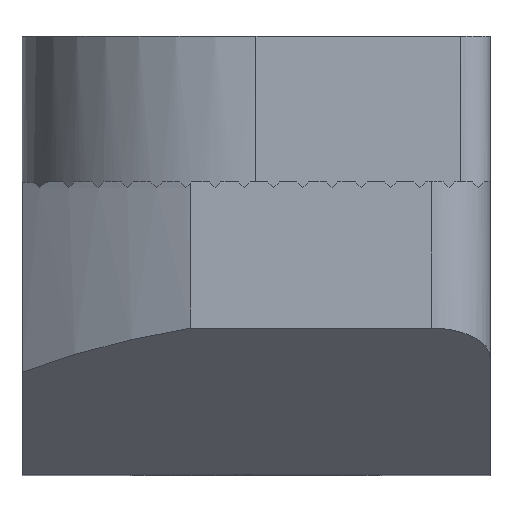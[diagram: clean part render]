
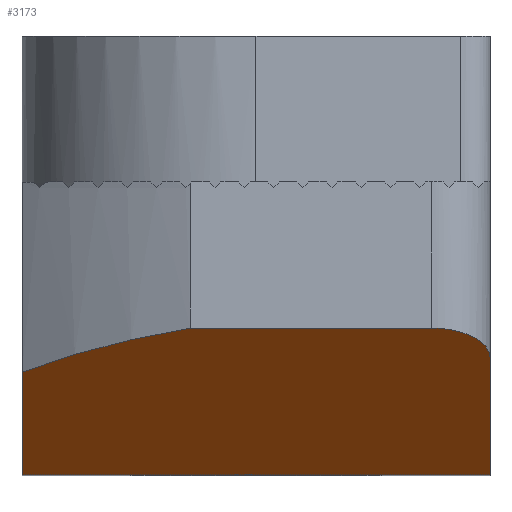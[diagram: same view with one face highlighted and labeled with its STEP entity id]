
A CAD part, top view. The second image highlights one B-rep face of the part: STEP entity #3173.
In plain terms, the highlighted planar face has unit normal (0, -0.894, 0.447).
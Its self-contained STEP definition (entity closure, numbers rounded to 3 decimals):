
#13 = EDGE_CURVE ( 'NONE', #2596, #3534, #190, .T. ) ;
#64 = EDGE_CURVE ( 'NONE', #2393, #1236, #3923, .T. ) ;
#123 = CARTESIAN_POINT ( 'NONE',  ( -2.159, -2.67, 9.159 ) ) ;
#136 = EDGE_CURVE ( 'NONE', #2957, #1524, #2255, .T. ) ;
#158 = DIRECTION ( 'NONE',  ( 0., 0.447, 0.894 ) ) ;
#190 =( BOUNDED_CURVE ( )  B_SPLINE_CURVE ( 3, ( #956, #4084, #616, #3161 ),
 .UNSPECIFIED., .F., .T. ) 
 B_SPLINE_CURVE_WITH_KNOTS ( ( 4, 4 ),
 ( 4.712, 6.283 ),
 .UNSPECIFIED. ) 
 CURVE ( )  GEOMETRIC_REPRESENTATION_ITEM ( )  RATIONAL_B_SPLINE_CURVE ( ( 1., 0.805, 0.805, 1. ) ) 
 REPRESENTATION_ITEM ( '' )  );
#301 = ORIENTED_EDGE ( 'NONE', *, *, #2933, .F. ) ;
#442 = ORIENTED_EDGE ( 'NONE', *, *, #2646, .F. ) ;
#616 = CARTESIAN_POINT ( 'NONE',  ( 3.586, -2.5, 9.5 ) ) ;
#758 = CARTESIAN_POINT ( 'NONE',  ( -4., -2.5, 9.5 ) ) ;
#949 = ORIENTED_EDGE ( 'NONE', *, *, #136, .T. ) ;
#956 = CARTESIAN_POINT ( 'NONE',  ( 4., -3., 8.5 ) ) ;
#1083 = DIRECTION ( 'NONE',  ( 0., 0.894, -0.447 ) ) ;
#1236 = VERTEX_POINT ( 'NONE', #3051 ) ;
#1380 = EDGE_CURVE ( 'NONE', #1524, #2596, #3171, .T. ) ;
#1446 = LINE ( 'NONE', #2852, #3186 ) ;
#1524 = VERTEX_POINT ( 'NONE', #1829 ) ;
#1829 = CARTESIAN_POINT ( 'NONE',  ( 4., -5., 4.5 ) ) ;
#1963 = DIRECTION ( 'NONE',  ( 1., 0., 0. ) ) ;
#2012 = EDGE_LOOP ( 'NONE', ( #2357, #3816, #301, #3047, #442, #949 ) ) ;
#2131 = CARTESIAN_POINT ( 'NONE',  ( -3.127, -2.923, 8.655 ) ) ;
#2255 = LINE ( 'NONE', #3476, #2502 ) ;
#2259 = FACE_OUTER_BOUND ( 'NONE', #2012, .T. ) ;
#2357 = ORIENTED_EDGE ( 'NONE', *, *, #1380, .T. ) ;
#2393 = VERTEX_POINT ( 'NONE', #3579 ) ;
#2454 = CARTESIAN_POINT ( 'NONE',  ( -1.122, -2.5, 9.5 ) ) ;
#2502 = VECTOR ( 'NONE', #1963, 1000. ) ;
#2596 = VERTEX_POINT ( 'NONE', #3707 ) ;
#2630 = LINE ( 'NONE', #3347, #2636 ) ;
#2636 = VECTOR ( 'NONE', #3022, 1000. ) ;
#2646 = EDGE_CURVE ( 'NONE', #2957, #2393, #1446, .T. ) ;
#2672 = PLANE ( 'NONE',  #2701 ) ;
#2701 = AXIS2_PLACEMENT_3D ( 'NONE', #758, #1083, #3279 ) ;
#2852 = CARTESIAN_POINT ( 'NONE',  ( -4., -2.5, 9.5 ) ) ;
#2933 = EDGE_CURVE ( 'NONE', #1236, #3534, #2630, .T. ) ;
#2957 = VERTEX_POINT ( 'NONE', #3058 ) ;
#3022 = DIRECTION ( 'NONE',  ( 1., 0., 0. ) ) ;
#3026 = CARTESIAN_POINT ( 'NONE',  ( -4., -3.25, 8. ) ) ;
#3047 = ORIENTED_EDGE ( 'NONE', *, *, #64, .F. ) ;
#3051 = CARTESIAN_POINT ( 'NONE',  ( -1.122, -2.5, 9.5 ) ) ;
#3058 = CARTESIAN_POINT ( 'NONE',  ( -4., -5., 4.5 ) ) ;
#3122 = VECTOR ( 'NONE', #158, 1000. ) ;
#3161 = CARTESIAN_POINT ( 'NONE',  ( 3., -2.5, 9.5 ) ) ;
#3171 = LINE ( 'NONE', #3998, #3122 ) ;
#3173 = ADVANCED_FACE ( 'NONE', ( #2259 ), #2672, .F. ) ;
#3186 = VECTOR ( 'NONE', #3467, 1000. ) ;
#3279 = DIRECTION ( 'NONE',  ( 0., 0.447, 0.894 ) ) ;
#3347 = CARTESIAN_POINT ( 'NONE',  ( -4., -2.5, 9.5 ) ) ;
#3467 = DIRECTION ( 'NONE',  ( 0., 0.447, 0.894 ) ) ;
#3476 = CARTESIAN_POINT ( 'NONE',  ( -4., -5., 4.5 ) ) ;
#3534 = VERTEX_POINT ( 'NONE', #3614 ) ;
#3579 = CARTESIAN_POINT ( 'NONE',  ( -4., -3.25, 8. ) ) ;
#3614 = CARTESIAN_POINT ( 'NONE',  ( 3., -2.5, 9.5 ) ) ;
#3707 = CARTESIAN_POINT ( 'NONE',  ( 4., -3., 8.5 ) ) ;
#3816 = ORIENTED_EDGE ( 'NONE', *, *, #13, .T. ) ;
#3923 =( BOUNDED_CURVE ( )  B_SPLINE_CURVE ( 3, ( #3026, #2131, #123, #2454 ),
 .UNSPECIFIED., .F., .F. ) 
 B_SPLINE_CURVE_WITH_KNOTS ( ( 4, 4 ),
 ( 5.64, 5.966 ),
 .UNSPECIFIED. ) 
 CURVE ( )  GEOMETRIC_REPRESENTATION_ITEM ( )  RATIONAL_B_SPLINE_CURVE ( ( 1., 0.991, 0.991, 1. ) ) 
 REPRESENTATION_ITEM ( '' )  );
#3998 = CARTESIAN_POINT ( 'NONE',  ( 4., -2.5, 9.5 ) ) ;
#4084 = CARTESIAN_POINT ( 'NONE',  ( 4., -2.707, 9.086 ) ) ;
